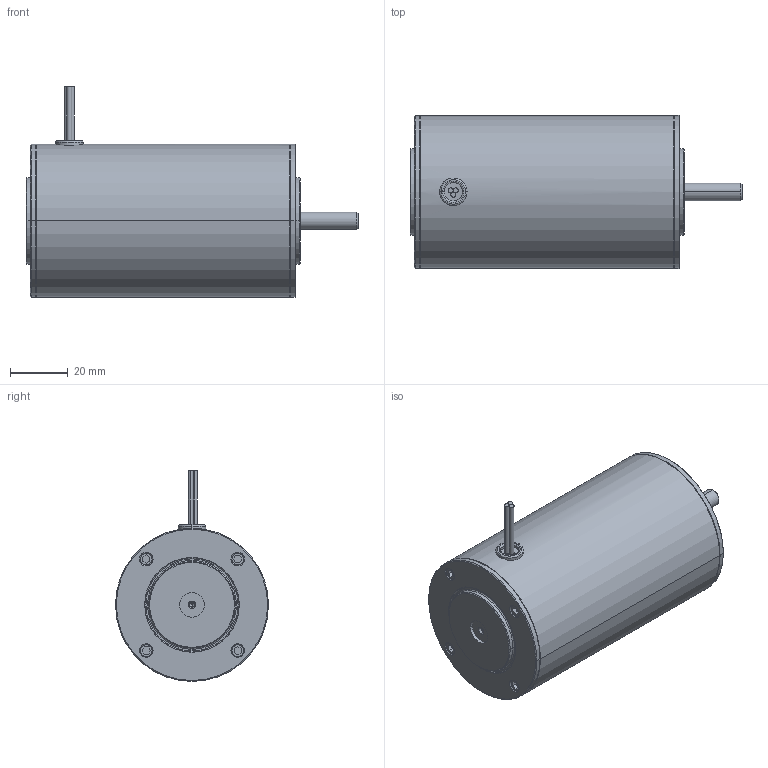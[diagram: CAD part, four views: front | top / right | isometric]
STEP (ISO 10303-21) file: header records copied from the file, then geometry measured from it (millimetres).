
FILE_DESCRIPTION (( 'STEP AP214' ), '1' );
FILE_NAME ('D544.STEP', '2011-01-31T08:47:13', ( ' ' ), ( '' ), 'SwSTEP 2.0', 'SolidWorks 2010', '' );
FILE_SCHEMA (( 'AUTOMOTIVE_DESIGN' ));
Length unit declared in the file: millimetre
Products named in the file (1): D544
Bounding box: 115 x 53 x 73 mm (x, y, z)
Volume: 205089.9 mm3; surface area: 21496.6 mm2
Topology: 4 solids, 4 shells, 206 faces, 464 edges, 284 vertices
Faces by surface type: plane 79, cone 62, cylinder 53, torus 12
Entity records: 6121 total; most frequent: CARTESIAN_POINT 1075, DIRECTION 1052, ORIENTED_EDGE 904, EDGE_CURVE 452, AXIS2_PLACEMENT_3D 397, VERTEX_POINT 284, VECTOR 258, LINE 258
